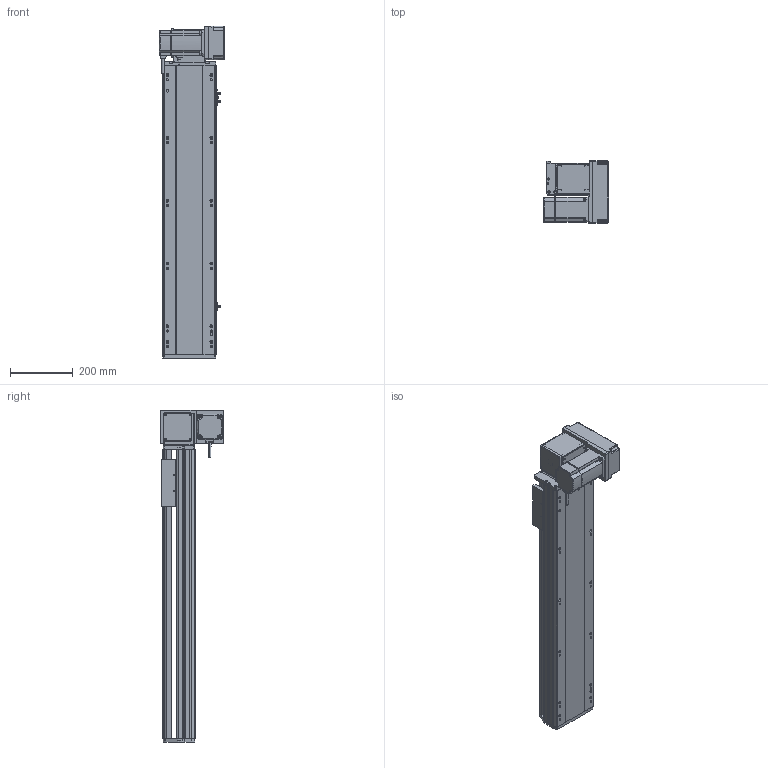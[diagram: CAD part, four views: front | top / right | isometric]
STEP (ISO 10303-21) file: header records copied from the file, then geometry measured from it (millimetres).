
FILE_DESCRIPTION (( 'STEP AP214' ), '1' );
FILE_NAME ('RTB17S-XX-650-RM-M75-C4.STEP', '2025-12-12T02:03:16', ( '' ), ( '' ), 'SwSTEP 2.0', 'SolidWorks 2018', '' );
FILE_SCHEMA (( 'AUTOMOTIVE_DESIGN' ));
Length unit declared in the file: millimetre
Products named in the file (15): RTB22S-GY-005P^RTB17S-RM-々湍釱蚾饜-750W_RTB17S-XX-XX-RM-M75-C4; 750W萇儂^RTB17S-XX-XX-RM-M75-C4; RTB22S-GY-018P^RTB17S-RM-々湍釱蚾饜-750W_RTB17S-XX-XX-RM-M75-C4; RTB17S-賑釱^RTB17S-XX-XX-RM-M75-C4; EE672^RTB17S-XX-XX-RM-M75-C4; RTB22S-GY-017P^RTB17S-RM-々湍釱蚾饜-750W_RTB17S-XX-XX-RM-M75-C4; RTB17S-L-014-T20-P75--々湍釱^RTB17S-RM-々湍釱蚾饜-750W_RTB17S-XX-XX-RM-M75-C4; RTB17-R-011菁釱^RTB17S-XX-XX-RM-M75-C4; RTB17S-L-007奻裔^RTB17S-XX-XX-RM-M75-C4; RTH13-BL-012覜茼え俋离^RTB17S-賑釱_RTB17S-XX-XX-RM-M75-C4; RTB17S-L-004-賑釱^RTB17S-賑釱_RTB17S-XX-XX-RM-M75-C4; RTB22S-GY-008-M75--萇儂啣^RTB17S-RM-々湍釱蚾饜-750W_RTB17S-XX-XX-RM-M75-C4; RTB17S-L-001-耜醱啣^RTB17S-XX-XX-RM-M75-C4; RTB17S-XX-650-RM-M75-C4; RTB17S-RM-々湍釱蚾饜-750W^RTB17S-XX-XX-RM-M75-C4
Assembly tree (17 placements, depth 3):
  RTB17S-XX-650-RM-M75-C4
    RTB17-R-011菁釱^RTB17S-XX-XX-RM-M75-C4
    EE672^RTB17S-XX-XX-RM-M75-C4  x3
    RTB17S-L-001-耜醱啣^RTB17S-XX-XX-RM-M75-C4
    RTB17S-賑釱^RTB17S-XX-XX-RM-M75-C4
      RTB17S-L-004-賑釱^RTB17S-賑釱_RTB17S-XX-XX-RM-M75-C4
      RTH13-BL-012覜茼え俋离^RTB17S-賑釱_RTB17S-XX-XX-RM-M75-C4
    RTB17S-L-007奻裔^RTB17S-XX-XX-RM-M75-C4
    750W萇儂^RTB17S-XX-XX-RM-M75-C4
    RTB17S-RM-々湍釱蚾饜-750W^RTB17S-XX-XX-RM-M75-C4
      RTB17S-L-014-T20-P75--々湍釱^RTB17S-RM-々湍釱蚾饜-750W_RTB17S-XX-XX-RM-M75-C4
      RTB22S-GY-005P^RTB17S-RM-々湍釱蚾饜-750W_RTB17S-XX-XX-RM-M75-C4
      RTB22S-GY-017P^RTB17S-RM-々湍釱蚾饜-750W_RTB17S-XX-XX-RM-M75-C4  x2
      RTB22S-GY-008-M75--萇儂啣^RTB17S-RM-々湍釱蚾饜-750W_RTB17S-XX-XX-RM-M75-C4
      RTB22S-GY-018P^RTB17S-RM-々湍釱蚾饜-750W_RTB17S-XX-XX-RM-M75-C4
Bounding box: 207.4 x 200 x 1057.5 mm (x, y, z)
Volume: 10007991.2 mm3; surface area: 1642802.5 mm2
Topology: 17 solids, 17 shells, 2073 faces, 5728 edges, 3698 vertices
Faces by surface type: plane 968, cylinder 689, bspline 294, cone 110, sphere 8, torus 4
Entity records: 57334 total; most frequent: CARTESIAN_POINT 16792, ORIENTED_EDGE 8300, DIRECTION 7772, EDGE_CURVE 4150, AXIS2_PLACEMENT_3D 2718, VERTEX_POINT 2702, VECTOR 2336, LINE 2336
